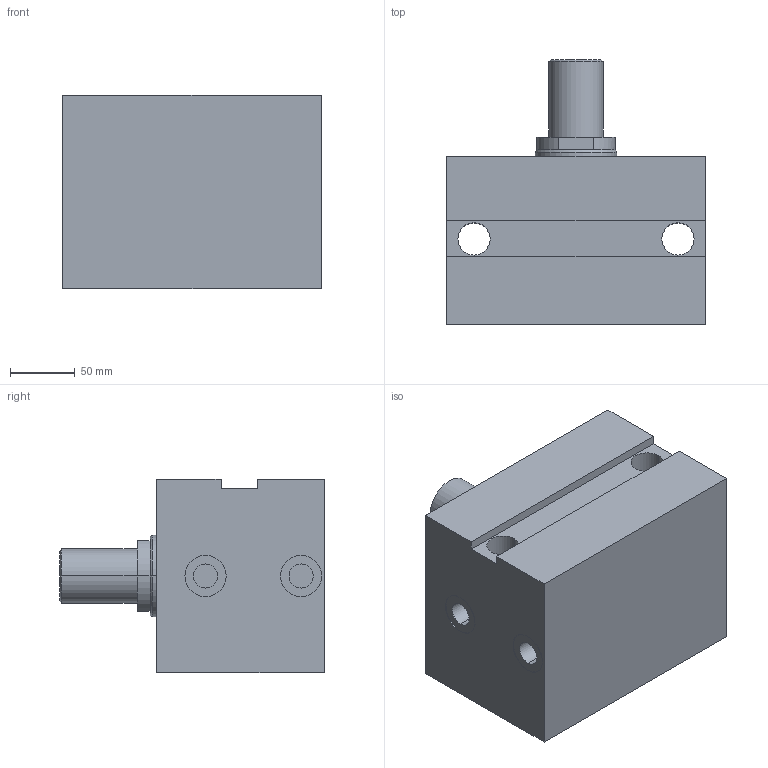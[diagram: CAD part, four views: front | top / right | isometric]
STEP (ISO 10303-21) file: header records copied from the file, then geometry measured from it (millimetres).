
FILE_DESCRIPTION (( 'STEP AP203' ), '1' );
FILE_NAME ('GERMA_Blockzylinder_602-100-040-A.STEP', '2015-10-09T13:50:55', ( '' ), ( '' ), 'SwSTEP 2.0', 'SolidWorks 2015', '' );
FILE_SCHEMA (( 'CONFIG_CONTROL_DESIGN' ));
Length unit declared in the file: millimetre
Products named in the file (3): GH-600-100_GH-602-100-040; Kolben 60x-100_Kolben DU.100-Hub40-AG; GERMA_Blockzylinder_602-100-040-A
Assembly tree (2 placements, depth 2):
  GERMA_Blockzylinder_602-100-040-A
    GH-600-100_GH-602-100-040
    Kolben 60x-100_Kolben DU.100-Hub40-AG
Bounding box: 200 x 205 x 150 mm (x, y, z)
Volume: 3646035.1 mm3; surface area: 266800.1 mm2
Topology: 2 solids, 2 shells, 69 faces, 150 edges, 93 vertices
Faces by surface type: cylinder 31, plane 26, cone 12
Entity records: 2182 total; most frequent: DIRECTION 367, CARTESIAN_POINT 313, ORIENTED_EDGE 292, AXIS2_PLACEMENT_3D 147, EDGE_CURVE 146, VERTEX_POINT 93, EDGE_LOOP 85, CIRCLE 73
